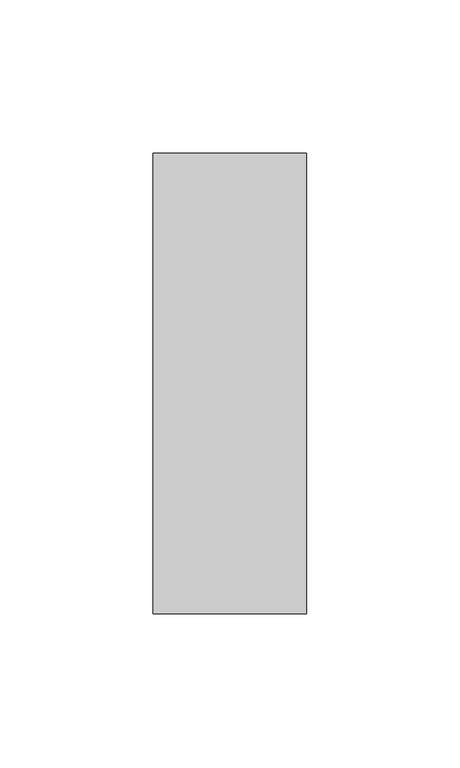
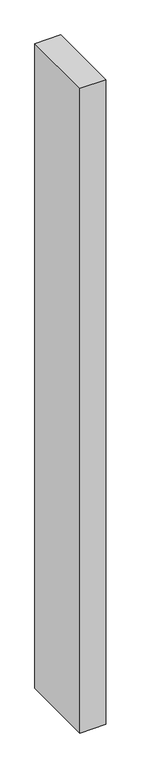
"""IFC4 building model written with IfcOpenShell, lengths in millimetres: member geometry, Прямоугольный импост : 50 x 150 мм."""

from ifc_helpers import new_model, si_unit, frame, origin, place, context, project, spatial, polyline, outline, extrude, source, transform, mapped, element, save


def member_f12e5e3c(model_context):
    return source(origin(), model_context, "Body", "SweptSolid", [
        extrude(outline(polyline([(25.0, 75.0), (25.0, -75.0), (-25.0, -75.0), (-25.0, 75.0), (25.0, 75.0)])), frame((0.0, 0.0, -1310.6650457), z_axis=(0.0, 0.0, 1.0), x_axis=(1.0, 0.0, 0.0)), (0.0, 0.0, 1.0), 1310.6650457),
    ])


if __name__ == "__main__":
    model = new_model("IFC4")
    model_context = context("Model", 3, world=origin())
    ifc_project = project(units=[si_unit("LENGTHUNIT", "METRE", prefix="MILLI")], contexts=[model_context])
    site = spatial("IfcSite", under=ifc_project)
    building = spatial("IfcBuilding", under=site)
    placement = place(None, origin())
    member_shape = member_f12e5e3c(model_context)
    element("IfcMember", 1, ObjectType="Прямоугольный импост : 50 x 150 мм", at=placement, inside=building, context=model_context, shape_type="MappedRepresentation", body=[
        mapped(member_shape, transform((0.0, 0.0, 0.0), x_axis=(1.0, 0.0, 0.0), y_axis=(0.0, 1.0, 0.0), z_axis=(0.0, 0.0, 1.0))),
    ])
    save(model, "model.ifc")
